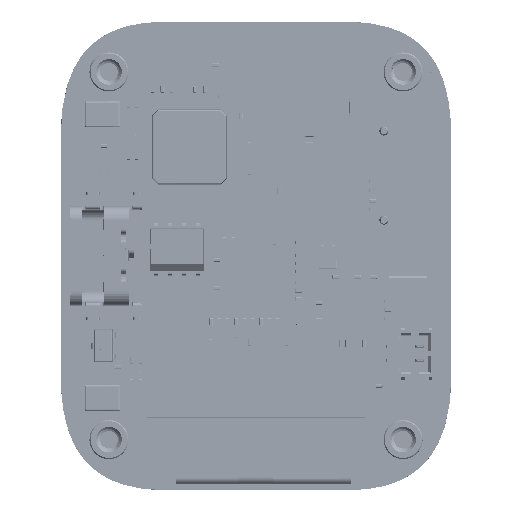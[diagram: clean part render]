
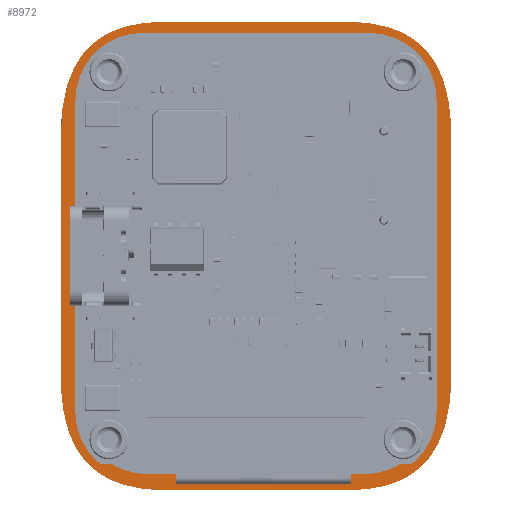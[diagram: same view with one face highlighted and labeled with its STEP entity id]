
A CAD part, top view. The second image highlights one B-rep face of the part: STEP entity #8972.
In plain terms, the highlighted planar face has unit normal (0, 0, 1).
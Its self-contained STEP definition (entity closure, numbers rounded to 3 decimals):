
#5333=CARTESIAN_POINT('',(-17.5,10.05,1.8));
#5334=CARTESIAN_POINT('',(-17.5,10.447,1.8));
#5335=CARTESIAN_POINT('',(-17.461,11.836,1.8));
#5336=CARTESIAN_POINT('',(-17.171,13.835,1.8));
#5337=CARTESIAN_POINT('',(-16.388,15.92,1.8));
#5338=CARTESIAN_POINT('',(-15.366,17.466,1.8));
#5339=CARTESIAN_POINT('',(-13.838,18.782,1.8));
#5340=CARTESIAN_POINT('',(-11.827,19.649,1.8));
#5341=CARTESIAN_POINT('',(-9.903,19.959,1.8));
#5342=CARTESIAN_POINT('',(-8.739,20.,1.8));
#5343=CARTESIAN_POINT('',(-8.35,20.,1.8));
#5348=DIRECTION('',(1.,0.,0.));
#5349=VECTOR('',#5348,16.7);
#5350=CARTESIAN_POINT('',(-8.35,20.,1.8));
#5351=LINE('',#5350,#5349);
#5355=CARTESIAN_POINT('',(8.35,20.,1.8));
#5356=CARTESIAN_POINT('',(8.594,20.,1.8));
#5357=CARTESIAN_POINT('',(9.539,19.979,1.8));
#5358=CARTESIAN_POINT('',(11.178,19.787,1.8));
#5359=CARTESIAN_POINT('',(13.185,19.131,1.8));
#5360=CARTESIAN_POINT('',(14.943,17.945,1.8));
#5361=CARTESIAN_POINT('',(16.326,16.143,1.8));
#5362=CARTESIAN_POINT('',(17.167,13.87,1.8));
#5363=CARTESIAN_POINT('',(17.461,11.755,1.8));
#5364=CARTESIAN_POINT('',(17.5,10.477,1.8));
#5365=CARTESIAN_POINT('',(17.5,10.05,1.8));
#5370=DIRECTION('',(0.,-1.,0.));
#5371=VECTOR('',#5370,22.1);
#5372=CARTESIAN_POINT('',(17.5,10.05,1.8));
#5373=LINE('',#5372,#5371);
#5377=CARTESIAN_POINT('',(17.5,-12.05,1.8));
#5378=CARTESIAN_POINT('',(17.5,-12.447,1.8));
#5379=CARTESIAN_POINT('',(17.461,-13.836,1.8));
#5380=CARTESIAN_POINT('',(17.171,-15.835,1.8));
#5381=CARTESIAN_POINT('',(16.388,-17.92,1.8));
#5382=CARTESIAN_POINT('',(15.366,-19.466,1.8));
#5383=CARTESIAN_POINT('',(13.838,-20.782,1.8));
#5384=CARTESIAN_POINT('',(11.827,-21.649,1.8));
#5385=CARTESIAN_POINT('',(9.903,-21.959,1.8));
#5386=CARTESIAN_POINT('',(8.739,-22.,1.8));
#5387=CARTESIAN_POINT('',(8.35,-22.,1.8));
#5392=DIRECTION('',(-1.,0.,0.));
#5393=VECTOR('',#5392,16.7);
#5394=CARTESIAN_POINT('',(8.35,-22.,1.8));
#5395=LINE('',#5394,#5393);
#5399=CARTESIAN_POINT('',(-8.35,-22.,1.8));
#5400=CARTESIAN_POINT('',(-8.594,-22.,1.8));
#5401=CARTESIAN_POINT('',(-9.539,-21.979,1.8));
#5402=CARTESIAN_POINT('',(-11.178,-21.787,1.8));
#5403=CARTESIAN_POINT('',(-13.185,-21.131,1.8));
#5404=CARTESIAN_POINT('',(-14.943,-19.945,1.8));
#5405=CARTESIAN_POINT('',(-16.326,-18.143,1.8));
#5406=CARTESIAN_POINT('',(-17.167,-15.87,1.8));
#5407=CARTESIAN_POINT('',(-17.461,-13.755,1.8));
#5408=CARTESIAN_POINT('',(-17.5,-12.477,1.8));
#5409=CARTESIAN_POINT('',(-17.5,-12.05,1.8));
#5414=DIRECTION('',(0.,1.,0.));
#5415=VECTOR('',#5414,22.1);
#5416=CARTESIAN_POINT('',(-17.5,-12.05,1.8));
#5417=LINE('',#5416,#5415);
#5421=DIRECTION('',(0.,-1.,0.));
#5422=VECTOR('',#5421,0.15);
#5423=CARTESIAN_POINT('',(-1.5,-21.35,1.8));
#5424=LINE('',#5423,#5422);
#5428=DIRECTION('',(-1.,0.,0.));
#5429=VECTOR('',#5428,3.);
#5430=CARTESIAN_POINT('',(1.5,-21.5,1.8));
#5431=LINE('',#5430,#5429);
#5435=DIRECTION('',(0.,-1.,0.));
#5436=VECTOR('',#5435,0.15);
#5437=CARTESIAN_POINT('',(1.5,-21.35,1.8));
#5438=LINE('',#5437,#5436);
#5442=DIRECTION('',(-1.,0.,0.));
#5443=VECTOR('',#5442,3.);
#5444=CARTESIAN_POINT('',(1.5,-21.35,1.8));
#5445=LINE('',#5444,#5443);
#6067=CARTESIAN_POINT('',(8.35,-22.,1.8));
#6068=CARTESIAN_POINT('',(-8.35,-22.,1.8));
#6069=VERTEX_POINT('',#6067);
#6070=VERTEX_POINT('',#6068);
#6071=CARTESIAN_POINT('',(-17.5,-12.05,1.8));
#6072=CARTESIAN_POINT('',(-17.5,10.05,1.8));
#6073=VERTEX_POINT('',#6071);
#6074=VERTEX_POINT('',#6072);
#6127=CARTESIAN_POINT('',(-1.5,-21.35,1.8));
#6128=CARTESIAN_POINT('',(-1.5,-21.5,1.8));
#6129=VERTEX_POINT('',#6127);
#6130=VERTEX_POINT('',#6128);
#6131=CARTESIAN_POINT('',(1.5,-21.35,1.8));
#6132=CARTESIAN_POINT('',(1.5,-21.5,1.8));
#6133=VERTEX_POINT('',#6131);
#6134=VERTEX_POINT('',#6132);
#6241=VERTEX_POINT('',#5343);
#6242=CARTESIAN_POINT('',(8.35,20.,1.8));
#6243=VERTEX_POINT('',#6242);
#6244=VERTEX_POINT('',#5365);
#6245=CARTESIAN_POINT('',(17.5,-12.05,1.8));
#6246=VERTEX_POINT('',#6245);
#8947=CARTESIAN_POINT('',(0.,0.,1.8));
#8948=DIRECTION('',(0.,0.,-1.));
#8949=DIRECTION('',(-1.,0.,0.));
#8950=AXIS2_PLACEMENT_3D('',#8947,#8948,#8949);
#8951=PLANE('',#8950);
#8952=ORIENTED_EDGE('',*,*,#8888,.T.);
#8953=ORIENTED_EDGE('',*,*,#8902,.T.);
#8954=ORIENTED_EDGE('',*,*,#8928,.T.);
#8955=ORIENTED_EDGE('',*,*,#8941,.T.);
#8956=ORIENTED_EDGE('',*,*,#8807,.T.);
#8957=ORIENTED_EDGE('',*,*,#8822,.T.);
#8958=ORIENTED_EDGE('',*,*,#8848,.T.);
#8959=ORIENTED_EDGE('',*,*,#8862,.T.);
#8960=EDGE_LOOP('',(#8952,#8953,#8954,#8955,#8956,#8957,#8958,#8959));
#8961=FACE_OUTER_BOUND('',#8960,.F.);
#8963=ORIENTED_EDGE('',*,*,#8962,.T.);
#8965=ORIENTED_EDGE('',*,*,#8964,.F.);
#8967=ORIENTED_EDGE('',*,*,#8966,.F.);
#8969=ORIENTED_EDGE('',*,*,#8968,.T.);
#8970=EDGE_LOOP('',(#8963,#8965,#8967,#8969));
#8971=FACE_BOUND('',#8970,.F.);
#8972=ADVANCED_FACE('',(#8961,#8971),#8951,.F.);
#5344=B_SPLINE_CURVE_WITH_KNOTS('',3,(#5333,#5334,#5335,#5336,#5337,#5338,#5339,
#5340,#5341,#5342,#5343),.UNSPECIFIED.,.F.,.F.,(4,1,1,1,1,1,1,1,4),(0.,
0.077,0.269,0.388,0.506,
0.625,0.774,0.925,1.),.UNSPECIFIED.);
#5366=B_SPLINE_CURVE_WITH_KNOTS('',3,(#5355,#5356,#5357,#5358,#5359,#5360,#5361,
#5362,#5363,#5364,#5365),.UNSPECIFIED.,.F.,.F.,(4,1,1,1,1,1,1,1,4),(0.,
0.047,0.183,0.318,0.453,
0.588,0.752,0.917,1.),.UNSPECIFIED.);
#5388=B_SPLINE_CURVE_WITH_KNOTS('',3,(#5377,#5378,#5379,#5380,#5381,#5382,#5383,
#5384,#5385,#5386,#5387),.UNSPECIFIED.,.F.,.F.,(4,1,1,1,1,1,1,1,4),(0.,
0.077,0.269,0.388,0.506,
0.625,0.774,0.925,1.),.UNSPECIFIED.);
#5410=B_SPLINE_CURVE_WITH_KNOTS('',3,(#5399,#5400,#5401,#5402,#5403,#5404,#5405,
#5406,#5407,#5408,#5409),.UNSPECIFIED.,.F.,.F.,(4,1,1,1,1,1,1,1,4),(0.,
0.047,0.183,0.318,0.453,
0.588,0.752,0.917,1.),.UNSPECIFIED.);
#8807=EDGE_CURVE('',#6246,#6069,#5388,.T.);
#8822=EDGE_CURVE('',#6069,#6070,#5395,.T.);
#8848=EDGE_CURVE('',#6070,#6073,#5410,.T.);
#8862=EDGE_CURVE('',#6073,#6074,#5417,.T.);
#8888=EDGE_CURVE('',#6074,#6241,#5344,.T.);
#8902=EDGE_CURVE('',#6241,#6243,#5351,.T.);
#8928=EDGE_CURVE('',#6243,#6244,#5366,.T.);
#8941=EDGE_CURVE('',#6244,#6246,#5373,.T.);
#8962=EDGE_CURVE('',#6129,#6130,#5424,.T.);
#8964=EDGE_CURVE('',#6134,#6130,#5431,.T.);
#8966=EDGE_CURVE('',#6133,#6134,#5438,.T.);
#8968=EDGE_CURVE('',#6133,#6129,#5445,.T.);
